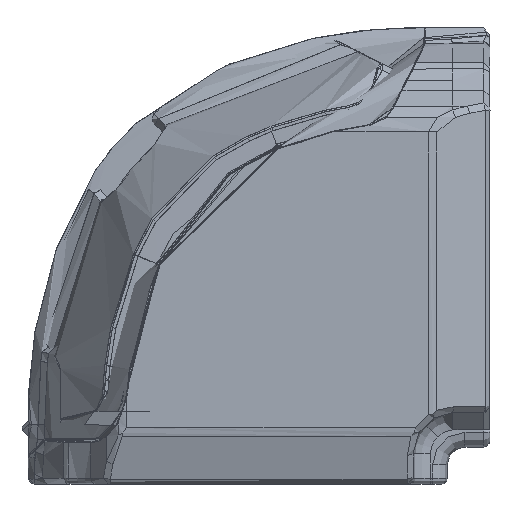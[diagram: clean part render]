
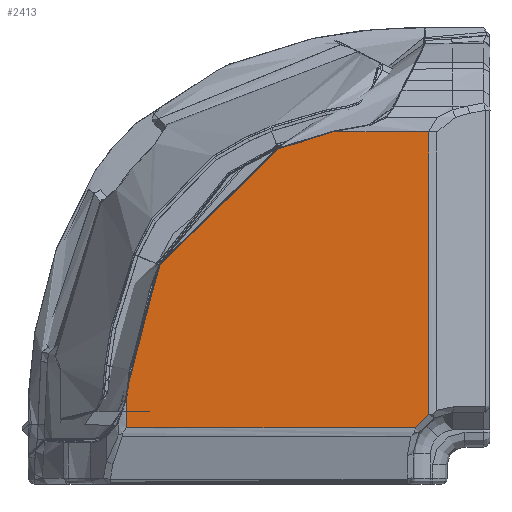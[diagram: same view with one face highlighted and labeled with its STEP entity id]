
A CAD part, top view. The second image highlights one B-rep face of the part: STEP entity #2413.
In plain terms, the highlighted planar face has unit normal (-0.007, -0.003, 1).
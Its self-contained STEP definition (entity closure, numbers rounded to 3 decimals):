
#2116 = CARTESIAN_POINT ( 'NONE',  ( 473.765, 824.205, -130.186 ) ) ;
#2413 = ADVANCED_FACE ( 'NONE', ( #188011 ), #92418, .T. ) ;
#5338 = ORIENTED_EDGE ( 'NONE', *, *, #106840, .T. ) ;
#7001 = EDGE_CURVE ( 'NONE', #219173, #168125, #157687, .T. ) ;
#7369 = CARTESIAN_POINT ( 'NONE',  ( 419.8, 848.719, -130.477 ) ) ;
#10406 = EDGE_LOOP ( 'NONE', ( #205920, #48935, #85576, #142140, #139659, #53662, #47756, #5338, #208287, #26638, #75364 ) ) ;
#11922 = CARTESIAN_POINT ( 'NONE',  ( 456.75, 881.664, -130.118 ) ) ;
#13492 = EDGE_CURVE ( 'NONE', #195804, #199042, #188127, .T. ) ;
#17472 = CARTESIAN_POINT ( 'NONE',  ( 446.011, 878.337, -130.202 ) ) ;
#25191 = VECTOR ( 'NONE', #164341, 1000. ) ;
#26638 = ORIENTED_EDGE ( 'NONE', *, *, #115362, .T. ) ;
#36564 = CARTESIAN_POINT ( 'NONE',  ( 416.713, 834.32, -130.545 ) ) ;
#38584 = CARTESIAN_POINT ( 'NONE',  ( 416.141, 829.935, -130.563 ) ) ;
#38794 = CARTESIAN_POINT ( 'NONE',  ( 473.068, 823.158, -130.194 ) ) ;
#47756 = ORIENTED_EDGE ( 'NONE', *, *, #86500, .T. ) ;
#48935 = ORIENTED_EDGE ( 'NONE', *, *, #140615, .F. ) ;
#49551 = B_SPLINE_CURVE_WITH_KNOTS ( 'NONE', 3,
 ( #176493, #231111, #157727, #103890 ),
 .UNSPECIFIED., .F., .F.,
 ( 4, 4 ),
 ( 0., 1. ),
 .UNSPECIFIED. ) ;
#51656 = CARTESIAN_POINT ( 'NONE',  ( 423.352, 857.17, -130.426 ) ) ;
#53662 = ORIENTED_EDGE ( 'NONE', *, *, #13492, .T. ) ;
#54376 = VERTEX_POINT ( 'NONE', #134371 ) ;
#54520 = VERTEX_POINT ( 'NONE', #122015 ) ;
#54668 = CARTESIAN_POINT ( 'NONE',  ( 475.718, 881.663, -129.988 ) ) ;
#59580 = CARTESIAN_POINT ( 'NONE',  ( 453.094, 880.821, -130.146 ) ) ;
#62985 = B_SPLINE_CURVE_WITH_KNOTS ( 'NONE', 3,
 ( #197143, #199433, #38584, #127558 ),
 .UNSPECIFIED., .F., .F.,
 ( 4, 4 ),
 ( 0., 1. ),
 .UNSPECIFIED. ) ;
#63866 = VERTEX_POINT ( 'NONE', #225332 ) ;
#71393 = DIRECTION ( 'NONE',  ( -1., 0., -0.007 ) ) ;
#73660 = CARTESIAN_POINT ( 'NONE',  ( 473.068, 823.158, -130.194 ) ) ;
#74829 = CARTESIAN_POINT ( 'NONE',  ( 416.74, 834.446, -130.544 ) ) ;
#75364 = ORIENTED_EDGE ( 'NONE', *, *, #230119, .T. ) ;
#78922 = EDGE_CURVE ( 'NONE', #216625, #195804, #89025, .T. ) ;
#85576 = ORIENTED_EDGE ( 'NONE', *, *, #7001, .T. ) ;
#86500 = EDGE_CURVE ( 'NONE', #199042, #213535, #180693, .T. ) ;
#86802 = CARTESIAN_POINT ( 'NONE',  ( 446.011, 878.337, -130.202 ) ) ;
#88578 = VERTEX_POINT ( 'NONE', #97036 ) ;
#89025 = LINE ( 'NONE', #171680, #186702 ) ;
#89625 = CARTESIAN_POINT ( 'NONE',  ( 474.667, 825.1, -130.177 ) ) ;
#92418 = PLANE ( 'NONE',  #207895 ) ;
#97036 = CARTESIAN_POINT ( 'NONE',  ( 416.023, 829.358, -130.565 ) ) ;
#103890 = CARTESIAN_POINT ( 'NONE',  ( 416.296, 831.105, -130.558 ) ) ;
#104152 = CARTESIAN_POINT ( 'NONE',  ( 422.553, 855.339, -130.437 ) ) ;
#104756 = CARTESIAN_POINT ( 'NONE',  ( 429.456, 867.077, -130.352 ) ) ;
#106840 = EDGE_CURVE ( 'NONE', #213535, #54376, #172986, .T. ) ;
#108021 = LINE ( 'NONE', #73660, #211283 ) ;
#109848 = EDGE_CURVE ( 'NONE', #88578, #63866, #134224, .T. ) ;
#110309 = DIRECTION ( 'NONE',  ( -0.007, -0.003, 1. ) ) ;
#115362 = EDGE_CURVE ( 'NONE', #157603, #54520, #49551, .T. ) ;
#118483 = CARTESIAN_POINT ( 'NONE',  ( 416.023, 829.358, -130.565 ) ) ;
#122015 = CARTESIAN_POINT ( 'NONE',  ( 416.296, 831.105, -130.558 ) ) ;
#125171 = CARTESIAN_POINT ( 'NONE',  ( 456.75, 881.664, -130.118 ) ) ;
#127558 = CARTESIAN_POINT ( 'NONE',  ( 416.023, 829.358, -130.565 ) ) ;
#128248 = CARTESIAN_POINT ( 'NONE',  ( 481.278, 855.557, -130.034 ) ) ;
#128665 = CARTESIAN_POINT ( 'NONE',  ( 416.764, 834.573, -130.543 ) ) ;
#131980 = CARTESIAN_POINT ( 'NONE',  ( 473.068, 823.158, -130.194 ) ) ;
#133042 = CARTESIAN_POINT ( 'NONE',  ( 422.553, 855.339, -130.437 ) ) ;
#134224 = LINE ( 'NONE', #118483, #212455 ) ;
#134371 = CARTESIAN_POINT ( 'NONE',  ( 416.783, 834.7, -130.543 ) ) ;
#136420 = DIRECTION ( 'NONE',  ( 0., -1., -0.003 ) ) ;
#139659 = ORIENTED_EDGE ( 'NONE', *, *, #78922, .T. ) ;
#140615 = EDGE_CURVE ( 'NONE', #219173, #63866, #108021, .T. ) ;
#142140 = ORIENTED_EDGE ( 'NONE', *, *, #171918, .F. ) ;
#146611 = CARTESIAN_POINT ( 'NONE',  ( 416.713, 834.32, -130.545 ) ) ;
#154464 = DIRECTION ( 'NONE',  ( -1., 0., -0.007 ) ) ;
#157603 = VERTEX_POINT ( 'NONE', #36564 ) ;
#157687 = B_SPLINE_CURVE_WITH_KNOTS ( 'NONE', 3,
 ( #38794, #2116, #89625, #161423 ),
 .UNSPECIFIED., .F., .F.,
 ( 4, 4 ),
 ( 0., 1. ),
 .UNSPECIFIED. ) ;
#157727 = CARTESIAN_POINT ( 'NONE',  ( 416.415, 832.179, -130.554 ) ) ;
#157828 = CARTESIAN_POINT ( 'NONE',  ( 422.553, 855.339, -130.437 ) ) ;
#159239 = CARTESIAN_POINT ( 'NONE',  ( 475.718, 881.663, -129.988 ) ) ;
#160880 = B_SPLINE_CURVE_WITH_KNOTS ( 'NONE', 3,
 ( #163847, #128665, #74829, #146611 ),
 .UNSPECIFIED., .F., .F.,
 ( 4, 4 ),
 ( 0., 1. ),
 .UNSPECIFIED. ) ;
#160948 = CARTESIAN_POINT ( 'NONE',  ( 441.396, 876.525, -130.24 ) ) ;
#161423 = CARTESIAN_POINT ( 'NONE',  ( 475.718, 825.791, -130.167 ) ) ;
#163847 = CARTESIAN_POINT ( 'NONE',  ( 416.783, 834.7, -130.543 ) ) ;
#164341 = DIRECTION ( 'NONE',  ( 0., -1., -0.003 ) ) ;
#165880 = CARTESIAN_POINT ( 'NONE',  ( 417.863, 841.788, -130.513 ) ) ;
#167643 = LINE ( 'NONE', #159239, #25191 ) ;
#168125 = VERTEX_POINT ( 'NONE', #221905 ) ;
#171680 = CARTESIAN_POINT ( 'NONE',  ( 475.718, 881.663, -129.988 ) ) ;
#171918 = EDGE_CURVE ( 'NONE', #216625, #168125, #167643, .T. ) ;
#172986 = B_SPLINE_CURVE_WITH_KNOTS ( 'NONE', 3,
 ( #133042, #7369, #165880, #221281 ),
 .UNSPECIFIED., .F., .F.,
 ( 4, 4 ),
 ( 0., 1. ),
 .UNSPECIFIED. ) ;
#176493 = CARTESIAN_POINT ( 'NONE',  ( 416.713, 834.32, -130.545 ) ) ;
#178139 = CARTESIAN_POINT ( 'NONE',  ( 426.187, 862.817, -130.388 ) ) ;
#180693 = B_SPLINE_CURVE_WITH_KNOTS ( 'NONE', 3,
 ( #86802, #160948, #214048, #104756, #178139, #51656, #230444, #157828 ),
 .UNSPECIFIED., .F., .F.,
 ( 4, 2, 2, 4 ),
 ( 0., 0.44, 0.911, 1. ),
 .UNSPECIFIED. ) ;
#186702 = VECTOR ( 'NONE', #154464, 1000. ) ;
#188011 = FACE_OUTER_BOUND ( 'NONE', #10406, .T. ) ;
#188127 = B_SPLINE_CURVE_WITH_KNOTS ( 'NONE', 3,
 ( #125171, #59580, #196282, #17472 ),
 .UNSPECIFIED., .F., .F.,
 ( 4, 4 ),
 ( 0., 1. ),
 .UNSPECIFIED. ) ;
#195804 = VERTEX_POINT ( 'NONE', #11922 ) ;
#196282 = CARTESIAN_POINT ( 'NONE',  ( 449.504, 879.709, -130.174 ) ) ;
#197143 = CARTESIAN_POINT ( 'NONE',  ( 416.296, 831.105, -130.558 ) ) ;
#199042 = VERTEX_POINT ( 'NONE', #231836 ) ;
#199433 = CARTESIAN_POINT ( 'NONE',  ( 416.231, 830.519, -130.56 ) ) ;
#205920 = ORIENTED_EDGE ( 'NONE', *, *, #109848, .T. ) ;
#207895 = AXIS2_PLACEMENT_3D ( 'NONE', #128248, #110309, #216553 ) ;
#208287 = ORIENTED_EDGE ( 'NONE', *, *, #221094, .T. ) ;
#211283 = VECTOR ( 'NONE', #71393, 1000. ) ;
#212455 = VECTOR ( 'NONE', #136420, 1000. ) ;
#213535 = VERTEX_POINT ( 'NONE', #104152 ) ;
#214048 = CARTESIAN_POINT ( 'NONE',  ( 437.139, 873.911, -130.277 ) ) ;
#216553 = DIRECTION ( 'NONE',  ( 0., -1., -0.003 ) ) ;
#216625 = VERTEX_POINT ( 'NONE', #54668 ) ;
#219173 = VERTEX_POINT ( 'NONE', #131980 ) ;
#221094 = EDGE_CURVE ( 'NONE', #54376, #157603, #160880, .T. ) ;
#221281 = CARTESIAN_POINT ( 'NONE',  ( 416.783, 834.7, -130.543 ) ) ;
#221905 = CARTESIAN_POINT ( 'NONE',  ( 475.718, 825.791, -130.167 ) ) ;
#225332 = CARTESIAN_POINT ( 'NONE',  ( 416.023, 823.16, -130.585 ) ) ;
#230119 = EDGE_CURVE ( 'NONE', #54520, #88578, #62985, .T. ) ;
#230444 = CARTESIAN_POINT ( 'NONE',  ( 422.936, 856.261, -130.431 ) ) ;
#231111 = CARTESIAN_POINT ( 'NONE',  ( 416.554, 833.251, -130.549 ) ) ;
#231836 = CARTESIAN_POINT ( 'NONE',  ( 446.011, 878.337, -130.202 ) ) ;
